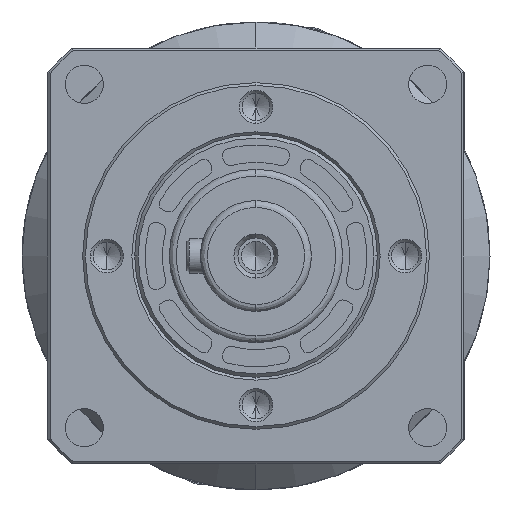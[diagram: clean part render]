
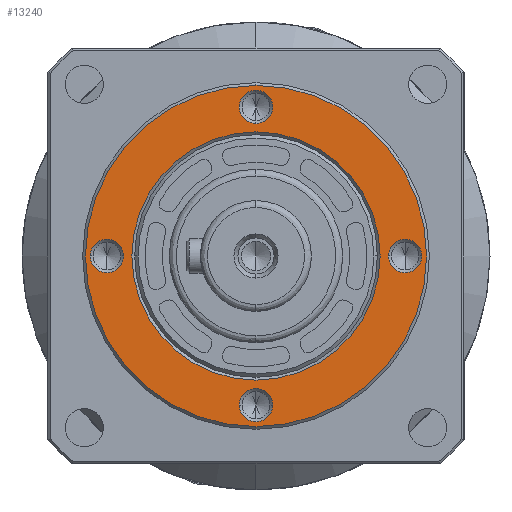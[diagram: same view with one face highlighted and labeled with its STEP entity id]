
A CAD part, left-side view. The second image highlights one B-rep face of the part: STEP entity #13240.
In plain terms, the highlighted planar face has unit normal (-1, 0, 0).
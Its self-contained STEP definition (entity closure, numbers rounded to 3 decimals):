
#50 = EDGE_LOOP ( 'NONE', ( #10421, #10372 ) ) ;
#124 = DIRECTION ( 'NONE',  ( -1., 0., 0. ) ) ;
#151 = VERTEX_POINT ( 'NONE', #7130 ) ;
#342 = AXIS2_PLACEMENT_3D ( 'NONE', #20785, #9432, #22631 ) ;
#393 = DIRECTION ( 'NONE',  ( 0., -1., 0. ) ) ;
#721 = CARTESIAN_POINT ( 'NONE',  ( -7., 0., 0. ) ) ;
#985 = CIRCLE ( 'NONE', #1347, 17.9 ) ;
#1130 = ORIENTED_EDGE ( 'NONE', *, *, #2467, .F. ) ;
#1292 = CIRCLE ( 'NONE', #7375, 2.4 ) ;
#1335 = DIRECTION ( 'NONE',  ( -1., 0., 0. ) ) ;
#1347 = AXIS2_PLACEMENT_3D ( 'NONE', #6372, #11906, #10202 ) ;
#1658 = AXIS2_PLACEMENT_3D ( 'NONE', #5901, #14870, #3801 ) ;
#1701 = DIRECTION ( 'NONE',  ( 0., 0., -1. ) ) ;
#1905 = VERTEX_POINT ( 'NONE', #12228 ) ;
#2132 = DIRECTION ( 'NONE',  ( -1., 0., 0. ) ) ;
#2467 = EDGE_CURVE ( 'NONE', #22271, #5695, #3313, .T. ) ;
#2553 = EDGE_CURVE ( 'NONE', #1905, #5989, #5908, .T. ) ;
#3050 = CARTESIAN_POINT ( 'NONE',  ( -7., 0., 21.5 ) ) ;
#3091 = ORIENTED_EDGE ( 'NONE', *, *, #17709, .F. ) ;
#3151 = FACE_BOUND ( 'NONE', #50, .T. ) ;
#3195 = VERTEX_POINT ( 'NONE', #22156 ) ;
#3313 = CIRCLE ( 'NONE', #7962, 17.9 ) ;
#3315 = ORIENTED_EDGE ( 'NONE', *, *, #21158, .F. ) ;
#3341 = VERTEX_POINT ( 'NONE', #13695 ) ;
#3427 = DIRECTION ( 'NONE',  ( 1., 0., 0. ) ) ;
#3735 = DIRECTION ( 'NONE',  ( -1., 0., 0. ) ) ;
#3801 = DIRECTION ( 'NONE',  ( 0., -1., 0. ) ) ;
#3859 = DIRECTION ( 'NONE',  ( 0., 0., 1. ) ) ;
#3910 = EDGE_LOOP ( 'NONE', ( #19888, #20593 ) ) ;
#4250 = ORIENTED_EDGE ( 'NONE', *, *, #14264, .F. ) ;
#4310 = FACE_BOUND ( 'NONE', #17219, .T. ) ;
#4367 = DIRECTION ( 'NONE',  ( 0., 0., -1. ) ) ;
#4700 = DIRECTION ( 'NONE',  ( -1., 0., 0. ) ) ;
#5030 = VERTEX_POINT ( 'NONE', #5825 ) ;
#5290 = PLANE ( 'NONE',  #17603 ) ;
#5695 = VERTEX_POINT ( 'NONE', #17677 ) ;
#5825 = CARTESIAN_POINT ( 'NONE',  ( -7., 0., -24.6 ) ) ;
#5901 = CARTESIAN_POINT ( 'NONE',  ( -7., 0., -21.5 ) ) ;
#5908 = CIRCLE ( 'NONE', #22864, 2.4 ) ;
#5989 = VERTEX_POINT ( 'NONE', #6853 ) ;
#6372 = CARTESIAN_POINT ( 'NONE',  ( -7., 0., 0. ) ) ;
#6530 = VERTEX_POINT ( 'NONE', #19647 ) ;
#6570 = AXIS2_PLACEMENT_3D ( 'NONE', #3050, #1335, #17995 ) ;
#6812 = EDGE_CURVE ( 'NONE', #3341, #21461, #8795, .T. ) ;
#6853 = CARTESIAN_POINT ( 'NONE',  ( -7., -19.1, 0. ) ) ;
#6938 = AXIS2_PLACEMENT_3D ( 'NONE', #721, #20754, #4367 ) ;
#7130 = CARTESIAN_POINT ( 'NONE',  ( -7., 0., 19.1 ) ) ;
#7375 = AXIS2_PLACEMENT_3D ( 'NONE', #16770, #3735, #14890 ) ;
#7810 = CARTESIAN_POINT ( 'NONE',  ( -7., 0., 23.9 ) ) ;
#7882 = CIRCLE ( 'NONE', #10602, 2.4 ) ;
#7899 = EDGE_CURVE ( 'NONE', #5030, #6530, #15637, .T. ) ;
#7962 = AXIS2_PLACEMENT_3D ( 'NONE', #19231, #8256, #10303 ) ;
#8256 = DIRECTION ( 'NONE',  ( -1., 0., 0. ) ) ;
#8445 = ORIENTED_EDGE ( 'NONE', *, *, #16349, .F. ) ;
#8656 = EDGE_CURVE ( 'NONE', #6530, #5030, #17851, .T. ) ;
#8762 = CARTESIAN_POINT ( 'NONE',  ( -7., 2.4, -21.5 ) ) ;
#8786 = CARTESIAN_POINT ( 'NONE',  ( -7., 25., 0. ) ) ;
#8795 = CIRCLE ( 'NONE', #1658, 2.4 ) ;
#9241 = FACE_BOUND ( 'NONE', #3910, .T. ) ;
#9432 = DIRECTION ( 'NONE',  ( 1., 0., 0. ) ) ;
#9541 = CARTESIAN_POINT ( 'NONE',  ( -7., 0., 21.5 ) ) ;
#10202 = DIRECTION ( 'NONE',  ( 0., 0., 1. ) ) ;
#10252 = EDGE_LOOP ( 'NONE', ( #4250, #12106 ) ) ;
#10303 = DIRECTION ( 'NONE',  ( 0., 0., 1. ) ) ;
#10372 = ORIENTED_EDGE ( 'NONE', *, *, #17445, .F. ) ;
#10421 = ORIENTED_EDGE ( 'NONE', *, *, #6812, .F. ) ;
#10602 = AXIS2_PLACEMENT_3D ( 'NONE', #22281, #2132, #393 ) ;
#10703 = DIRECTION ( 'NONE',  ( 0., -1., 0. ) ) ;
#11303 = VERTEX_POINT ( 'NONE', #7810 ) ;
#11562 = AXIS2_PLACEMENT_3D ( 'NONE', #9541, #124, #3859 ) ;
#11563 = VERTEX_POINT ( 'NONE', #22802 ) ;
#11840 = CIRCLE ( 'NONE', #6570, 2.4 ) ;
#11906 = DIRECTION ( 'NONE',  ( -1., 0., 0. ) ) ;
#12106 = ORIENTED_EDGE ( 'NONE', *, *, #14136, .F. ) ;
#12228 = CARTESIAN_POINT ( 'NONE',  ( -7., -23.9, 0. ) ) ;
#12294 = CIRCLE ( 'NONE', #20967, 2.4 ) ;
#12956 = CIRCLE ( 'NONE', #11562, 2.4 ) ;
#13240 = ADVANCED_FACE ( 'NONE', ( #15290, #16415, #3151, #21855, #9241, #4310 ), #5290, .F. ) ;
#13354 = EDGE_LOOP ( 'NONE', ( #14973, #18429 ) ) ;
#13631 = CARTESIAN_POINT ( 'NONE',  ( -7., 0., -17.9 ) ) ;
#13695 = CARTESIAN_POINT ( 'NONE',  ( -7., -2.4, -21.5 ) ) ;
#13756 = CARTESIAN_POINT ( 'NONE',  ( -7., -21.5, 0. ) ) ;
#13999 = CIRCLE ( 'NONE', #21826, 2.4 ) ;
#14136 = EDGE_CURVE ( 'NONE', #151, #11303, #11840, .T. ) ;
#14264 = EDGE_CURVE ( 'NONE', #11303, #151, #12956, .T. ) ;
#14870 = DIRECTION ( 'NONE',  ( -1., 0., 0. ) ) ;
#14890 = DIRECTION ( 'NONE',  ( 0., -1., 0. ) ) ;
#14973 = ORIENTED_EDGE ( 'NONE', *, *, #7899, .F. ) ;
#15290 = FACE_OUTER_BOUND ( 'NONE', #13354, .T. ) ;
#15616 = CARTESIAN_POINT ( 'NONE',  ( -7., 21.5, 0. ) ) ;
#15637 = CIRCLE ( 'NONE', #6938, 24.6 ) ;
#16349 = EDGE_CURVE ( 'NONE', #11563, #3195, #12294, .T. ) ;
#16415 = FACE_BOUND ( 'NONE', #19341, .T. ) ;
#16770 = CARTESIAN_POINT ( 'NONE',  ( -7., 21.5, 0. ) ) ;
#17219 = EDGE_LOOP ( 'NONE', ( #3091, #1130 ) ) ;
#17445 = EDGE_CURVE ( 'NONE', #21461, #3341, #7882, .T. ) ;
#17603 = AXIS2_PLACEMENT_3D ( 'NONE', #8786, #3427, #1701 ) ;
#17677 = CARTESIAN_POINT ( 'NONE',  ( -7., 0., 17.9 ) ) ;
#17709 = EDGE_CURVE ( 'NONE', #5695, #22271, #985, .T. ) ;
#17851 = CIRCLE ( 'NONE', #342, 24.6 ) ;
#17995 = DIRECTION ( 'NONE',  ( 0., 0., 1. ) ) ;
#18001 = CARTESIAN_POINT ( 'NONE',  ( -7., -21.5, 0. ) ) ;
#18429 = ORIENTED_EDGE ( 'NONE', *, *, #8656, .F. ) ;
#19111 = DIRECTION ( 'NONE',  ( 0., -1., 0. ) ) ;
#19231 = CARTESIAN_POINT ( 'NONE',  ( -7., 0., 0. ) ) ;
#19341 = EDGE_LOOP ( 'NONE', ( #8445, #3315 ) ) ;
#19647 = CARTESIAN_POINT ( 'NONE',  ( -7., 0., 24.6 ) ) ;
#19858 = DIRECTION ( 'NONE',  ( -1., 0., 0. ) ) ;
#19888 = ORIENTED_EDGE ( 'NONE', *, *, #2553, .F. ) ;
#20593 = ORIENTED_EDGE ( 'NONE', *, *, #20595, .F. ) ;
#20595 = EDGE_CURVE ( 'NONE', #5989, #1905, #13999, .T. ) ;
#20754 = DIRECTION ( 'NONE',  ( 1., 0., 0. ) ) ;
#20785 = CARTESIAN_POINT ( 'NONE',  ( -7., 0., 0. ) ) ;
#20967 = AXIS2_PLACEMENT_3D ( 'NONE', #15616, #22805, #19111 ) ;
#21158 = EDGE_CURVE ( 'NONE', #3195, #11563, #1292, .T. ) ;
#21461 = VERTEX_POINT ( 'NONE', #8762 ) ;
#21826 = AXIS2_PLACEMENT_3D ( 'NONE', #18001, #19858, #22091 ) ;
#21855 = FACE_BOUND ( 'NONE', #10252, .T. ) ;
#22091 = DIRECTION ( 'NONE',  ( 0., -1., 0. ) ) ;
#22156 = CARTESIAN_POINT ( 'NONE',  ( -7., 23.9, 0. ) ) ;
#22271 = VERTEX_POINT ( 'NONE', #13631 ) ;
#22281 = CARTESIAN_POINT ( 'NONE',  ( -7., 0., -21.5 ) ) ;
#22631 = DIRECTION ( 'NONE',  ( 0., 0., -1. ) ) ;
#22802 = CARTESIAN_POINT ( 'NONE',  ( -7., 19.1, 0. ) ) ;
#22805 = DIRECTION ( 'NONE',  ( -1., 0., 0. ) ) ;
#22864 = AXIS2_PLACEMENT_3D ( 'NONE', #13756, #4700, #10703 ) ;
